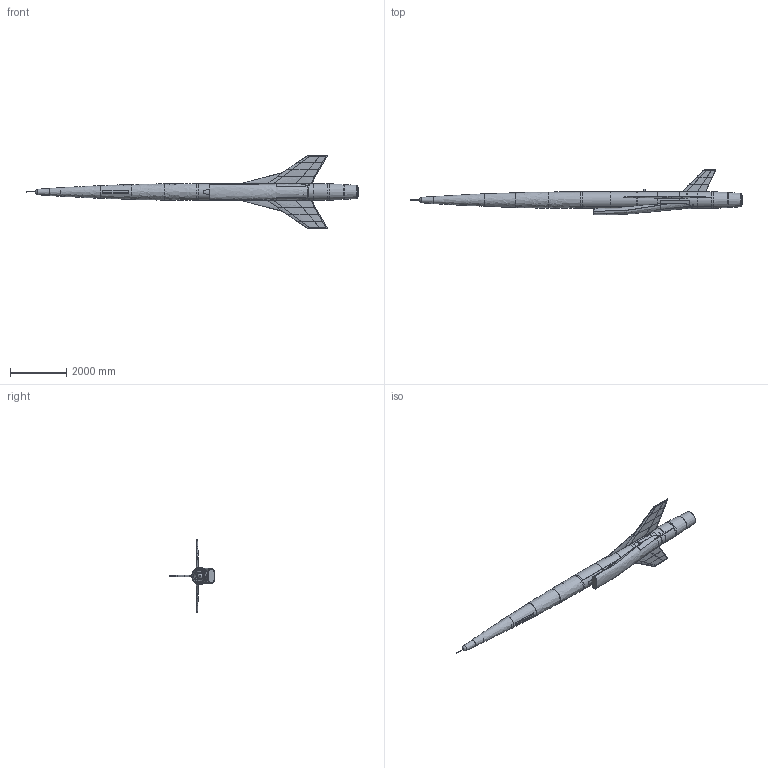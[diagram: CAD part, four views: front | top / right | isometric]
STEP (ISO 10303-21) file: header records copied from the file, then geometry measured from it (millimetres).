
FILE_DESCRIPTION(('Open CASCADE Model'),'2;1');
FILE_NAME('Open CASCADE Shape Model','2026-11-09T23:50:30',('Author'),( 'Open CASCADE'),'Open CASCADE STEP processor 7.9','Open CASCADE 7.9' ,'Unknown');
FILE_SCHEMA(('AUTOMOTIVE_DESIGN { 1 0 10303 214 1 1 1 1 }'));
Length unit declared in the file: millimetre
Products named in the file (179): superDrone_gear_up; Airframe; Fuselage skin + inlet cowl; Inlet S-duct; Aft base ring; Gear doors; MLG door stbd; MLG door port; NLG door stbd; NLG door port; Wings; Wing skin stbd; Wing skin port; Fin; Fin skin; Strakes; Strake (LERX) port; Strake (LERX) stbd; Structure; Wing stbd; Wing front spar stbd; Wing rear spar stbd; Wing rib 1 stbd; Wing rib 2 stbd; Wing rib 3 stbd; Wing rib 4 stbd; Wing rib 5 stbd; Wing port; Wing front spar port; Wing rear spar port; Wing rib 1 port; Wing rib 2 port; Wing rib 3 port; Wing rib 4 port; Wing rib 5 port; Fin front spar; Fin rear spar; Fin rib 1; Fin rib 2; Fin rib 3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
Assembly tree (178 placements, depth 4):
  superDrone_gear_up
    Airframe
      Fuselage skin + inlet cowl
      Inlet S-duct
      Aft base ring
      Gear doors
        MLG door stbd
        MLG door port
        NLG door stbd
        NLG door port
      Wings
        Wing skin stbd
        Wing skin port
      Fin
        Fin skin
      Strakes
        Strake (LERX) port
        Strake (LERX) stbd
    Structure
      Wing stbd
        Wing front spar stbd
        Wing rear spar stbd
        Wing rib 1 stbd
        Wing rib 2 stbd
        Wing rib 3 stbd
        Wing rib 4 stbd
        Wing rib 5 stbd
      Wing port
        Wing front spar port
        Wing rear spar port
        Wing rib 1 port
        Wing rib 2 port
        Wing rib 3 port
        Wing rib 4 port
        Wing rib 5 port
      Fin
        Fin front spar
        Fin rear spar
        Fin rib 1
        Fin rib 2
        Fin rib 3
        Fin rib 4
      Fuselage
        F3 tank-1 support
        F5 inlet frame
        F6 equipment-bay fwd
        F7 wing front-spar frame
        F8 wing rear-spar / MLG frame
        F9 fin front-spar / MLG trunnion frame
        F10 fin rear-spar frame
        F11 engine fwd-mount frame
        F12 engine aft-mount frame
        B1 avionics fwd bulkhead
        B2 avionics aft / NLG bay bulkhead
        B3 tank-1 fwd bulkhead
        B4 tank-1 aft bulkhead
        Longeron upper stbd
        Longeron upper port
        Longeron lower stbd fwd
        Longeron lower stbd aft
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Bounding box: 11843.73 x 1623.48 x 2600 mm (x, y, z)
Volume: 1398149073.1 mm3; surface area: 80194637.1 mm2
Topology: 184 solids, 184 shells, 1507 faces, 3306 edges, 2191 vertices
Faces by surface type: plane 1083, cylinder 196, bspline 133, cone 72, sphere 8, revolution 8, torus 7
Full cylindrical faces by diameter (mm): 6 x17, 8 x4, 12 x9, 13 x1, 16 x8, 17 x2, 18 x5, 20 x13, 20.2 x3, 24 x9, 25 x1, 26 x2, 30 x5, 31 x2, 34 x4, 36 x1, 40 x1, 50 x3, 52 x3, 60 x3, 80 x1, 100 x1, 105.6 x2, 118.8 x4, 150 x2, 156 x1, 160 x1, 180 x2, 200 x2, 210 x1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
Entity records: 392940 total; most frequent: CARTESIAN_POINT 324934, DIRECTION 10729, ORIENTED_EDGE 6588, PCURVE 6588, DEFINITIONAL_REPRESENTATION 6588, LINE 4784, VECTOR 4784, EDGE_CURVE 3294
